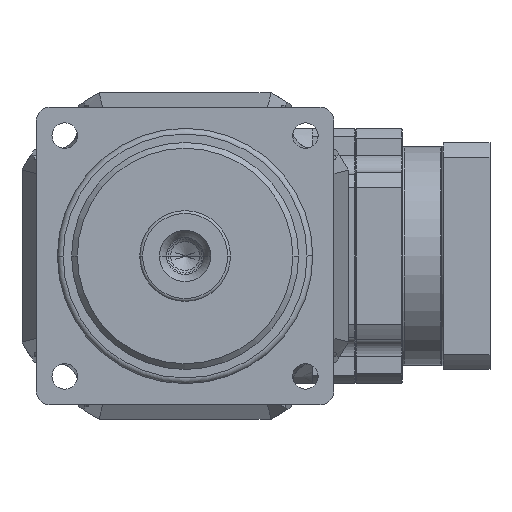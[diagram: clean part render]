
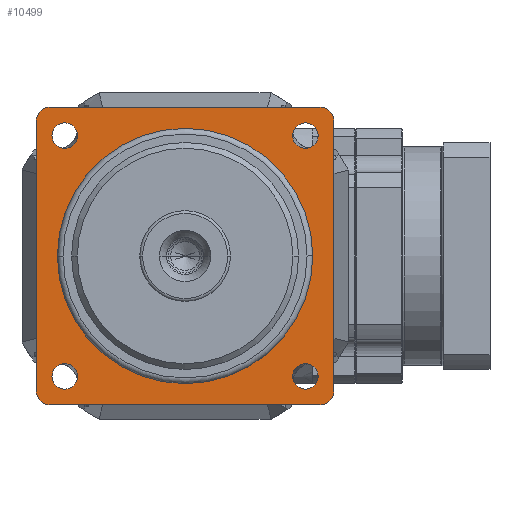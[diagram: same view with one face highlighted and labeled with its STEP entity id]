
A CAD part, left-side view. The second image highlights one B-rep face of the part: STEP entity #10499.
In plain terms, the highlighted planar face has unit normal (-1, 0, 0) as drawn and (0, 0, -1) by its records, which use the part's own axes.
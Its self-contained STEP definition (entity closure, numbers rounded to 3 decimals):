
#8212=CARTESIAN_POINT('',(-42.426,-42.426,0.));
#8213=DIRECTION('',(0.,0.,1.));
#8214=DIRECTION('',(1.,0.,0.));
#8215=AXIS2_PLACEMENT_3D('',#8212,#8213,#8214);
#8217=CARTESIAN_POINT('',(-42.426,-42.426,0.));
#8218=DIRECTION('',(0.,0.,1.));
#8219=DIRECTION('',(-1.,0.,0.));
#8220=AXIS2_PLACEMENT_3D('',#8217,#8218,#8219);
#8222=CARTESIAN_POINT('',(-42.426,42.426,0.));
#8223=DIRECTION('',(0.,0.,1.));
#8224=DIRECTION('',(1.,0.,0.));
#8225=AXIS2_PLACEMENT_3D('',#8222,#8223,#8224);
#8227=CARTESIAN_POINT('',(-42.426,42.426,0.));
#8228=DIRECTION('',(0.,0.,1.));
#8229=DIRECTION('',(-1.,0.,0.));
#8230=AXIS2_PLACEMENT_3D('',#8227,#8228,#8229);
#8232=CARTESIAN_POINT('',(42.426,42.426,0.));
#8233=DIRECTION('',(0.,0.,1.));
#8234=DIRECTION('',(1.,0.,0.));
#8235=AXIS2_PLACEMENT_3D('',#8232,#8233,#8234);
#8237=CARTESIAN_POINT('',(42.426,42.426,0.));
#8238=DIRECTION('',(0.,0.,1.));
#8239=DIRECTION('',(-1.,0.,0.));
#8240=AXIS2_PLACEMENT_3D('',#8237,#8238,#8239);
#8242=CARTESIAN_POINT('',(0.,0.,0.));
#8243=DIRECTION('',(0.,0.,1.));
#8244=DIRECTION('',(0.,-1.,0.));
#8245=AXIS2_PLACEMENT_3D('',#8242,#8243,#8244);
#8247=CARTESIAN_POINT('',(0.,0.,0.));
#8248=DIRECTION('',(0.,0.,1.));
#8249=DIRECTION('',(0.,1.,0.));
#8250=AXIS2_PLACEMENT_3D('',#8247,#8248,#8249);
#8252=DIRECTION('',(-1.,0.,0.));
#8253=VECTOR('',#8252,95.);
#8254=CARTESIAN_POINT('',(47.5,52.5,0.));
#8255=LINE('',#8254,#8253);
#8256=DIRECTION('',(0.,-1.,0.));
#8257=VECTOR('',#8256,95.);
#8258=CARTESIAN_POINT('',(-52.5,47.5,0.));
#8259=LINE('',#8258,#8257);
#8260=DIRECTION('',(1.,0.,0.));
#8261=VECTOR('',#8260,95.);
#8262=CARTESIAN_POINT('',(-47.5,-52.5,0.));
#8263=LINE('',#8262,#8261);
#8264=DIRECTION('',(0.,1.,0.));
#8265=VECTOR('',#8264,95.);
#8266=CARTESIAN_POINT('',(52.5,-47.5,0.));
#8267=LINE('',#8266,#8265);
#8268=CARTESIAN_POINT('',(42.426,-42.426,0.));
#8269=DIRECTION('',(0.,0.,1.));
#8270=DIRECTION('',(1.,0.,0.));
#8271=AXIS2_PLACEMENT_3D('',#8268,#8269,#8270);
#8273=CARTESIAN_POINT('',(42.426,-42.426,0.));
#8274=DIRECTION('',(0.,0.,1.));
#8275=DIRECTION('',(-1.,0.,0.));
#8276=AXIS2_PLACEMENT_3D('',#8273,#8274,#8275);
#8640=CARTESIAN_POINT('',(-47.5,47.5,0.));
#8641=DIRECTION('',(0.,0.,-1.));
#8642=DIRECTION('',(-1.,0.,0.));
#8643=AXIS2_PLACEMENT_3D('',#8640,#8641,#8642);
#9668=CARTESIAN_POINT('',(47.5,-47.5,0.));
#9669=DIRECTION('',(0.,0.,-1.));
#9670=DIRECTION('',(1.,0.,0.));
#9671=AXIS2_PLACEMENT_3D('',#9668,#9669,#9670);
#9690=CARTESIAN_POINT('',(47.5,47.5,0.));
#9691=DIRECTION('',(0.,0.,-1.));
#9692=DIRECTION('',(0.,1.,0.));
#9693=AXIS2_PLACEMENT_3D('',#9690,#9691,#9692);
#9708=CARTESIAN_POINT('',(-47.5,-47.5,0.));
#9709=DIRECTION('',(0.,0.,-1.));
#9710=DIRECTION('',(0.,-1.,0.));
#9711=AXIS2_PLACEMENT_3D('',#9708,#9709,#9710);
#10064=CARTESIAN_POINT('',(0.,-45.,0.));
#10065=CARTESIAN_POINT('',(0.,45.,0.));
#10066=VERTEX_POINT('',#10064);
#10067=VERTEX_POINT('',#10065);
#10069=CARTESIAN_POINT('',(52.5,47.5,0.));
#10071=VERTEX_POINT('',#10069);
#10074=CARTESIAN_POINT('',(47.5,52.5,0.));
#10075=VERTEX_POINT('',#10074);
#10077=CARTESIAN_POINT('',(-47.5,52.5,0.));
#10079=VERTEX_POINT('',#10077);
#10082=CARTESIAN_POINT('',(-52.5,47.5,0.));
#10083=VERTEX_POINT('',#10082);
#10085=CARTESIAN_POINT('',(47.5,-52.5,0.));
#10087=VERTEX_POINT('',#10085);
#10090=CARTESIAN_POINT('',(52.5,-47.5,0.));
#10091=VERTEX_POINT('',#10090);
#10093=CARTESIAN_POINT('',(-52.5,-47.5,0.));
#10095=VERTEX_POINT('',#10093);
#10098=CARTESIAN_POINT('',(-47.5,-52.5,0.));
#10099=VERTEX_POINT('',#10098);
#10100=CARTESIAN_POINT('',(46.926,-42.426,0.));
#10101=CARTESIAN_POINT('',(37.926,-42.426,0.));
#10102=VERTEX_POINT('',#10100);
#10103=VERTEX_POINT('',#10101);
#10106=CARTESIAN_POINT('',(46.926,42.426,0.));
#10107=CARTESIAN_POINT('',(37.926,42.426,0.));
#10108=VERTEX_POINT('',#10106);
#10109=VERTEX_POINT('',#10107);
#10112=CARTESIAN_POINT('',(-37.926,42.426,0.));
#10113=CARTESIAN_POINT('',(-46.926,42.426,0.));
#10114=VERTEX_POINT('',#10112);
#10115=VERTEX_POINT('',#10113);
#10118=CARTESIAN_POINT('',(-37.926,-42.426,0.));
#10119=CARTESIAN_POINT('',(-46.926,-42.426,0.));
#10120=VERTEX_POINT('',#10118);
#10121=VERTEX_POINT('',#10119);
#10448=CARTESIAN_POINT('',(0.,0.,0.));
#10449=DIRECTION('',(0.,0.,1.));
#10450=DIRECTION('',(0.,-1.,0.));
#10451=AXIS2_PLACEMENT_3D('',#10448,#10449,#10450);
#10452=PLANE('',#10451);
#10454=ORIENTED_EDGE('',*,*,#10453,.F.);
#10456=ORIENTED_EDGE('',*,*,#10455,.T.);
#10458=ORIENTED_EDGE('',*,*,#10457,.F.);
#10460=ORIENTED_EDGE('',*,*,#10459,.T.);
#10462=ORIENTED_EDGE('',*,*,#10461,.F.);
#10464=ORIENTED_EDGE('',*,*,#10463,.T.);
#10466=ORIENTED_EDGE('',*,*,#10465,.F.);
#10468=ORIENTED_EDGE('',*,*,#10467,.T.);
#10469=EDGE_LOOP('',(#10454,#10456,#10458,#10460,#10462,#10464,#10466,#10468));
#10470=FACE_OUTER_BOUND('',#10469,.F.);
#10472=ORIENTED_EDGE('',*,*,#10471,.F.);
#10474=ORIENTED_EDGE('',*,*,#10473,.F.);
#10475=EDGE_LOOP('',(#10472,#10474));
#10476=FACE_BOUND('',#10475,.F.);
#10478=ORIENTED_EDGE('',*,*,#10477,.F.);
#10480=ORIENTED_EDGE('',*,*,#10479,.F.);
#10481=EDGE_LOOP('',(#10478,#10480));
#10482=FACE_BOUND('',#10481,.F.);
#10483=ORIENTED_EDGE('',*,*,#10383,.F.);
#10484=ORIENTED_EDGE('',*,*,#10442,.F.);
#10485=EDGE_LOOP('',(#10483,#10484));
#10486=FACE_BOUND('',#10485,.F.);
#10488=ORIENTED_EDGE('',*,*,#10487,.F.);
#10490=ORIENTED_EDGE('',*,*,#10489,.F.);
#10491=EDGE_LOOP('',(#10488,#10490));
#10492=FACE_BOUND('',#10491,.F.);
#10494=ORIENTED_EDGE('',*,*,#10493,.F.);
#10496=ORIENTED_EDGE('',*,*,#10495,.F.);
#10497=EDGE_LOOP('',(#10494,#10496));
#10498=FACE_BOUND('',#10497,.F.);
#10499=ADVANCED_FACE('',(#10470,#10476,#10482,#10486,#10492,#10498),#10452,.F.);
#8216=CIRCLE('',#8215,4.5);
#8221=CIRCLE('',#8220,4.5);
#8226=CIRCLE('',#8225,4.5);
#8231=CIRCLE('',#8230,4.5);
#8236=CIRCLE('',#8235,4.5);
#8241=CIRCLE('',#8240,4.5);
#8246=CIRCLE('',#8245,45.);
#8251=CIRCLE('',#8250,45.);
#8272=CIRCLE('',#8271,4.5);
#8277=CIRCLE('',#8276,4.5);
#8644=CIRCLE('',#8643,5.);
#9672=CIRCLE('',#9671,5.);
#9694=CIRCLE('',#9693,5.);
#9712=CIRCLE('',#9711,5.);
#10383=EDGE_CURVE('',#10066,#10067,#8246,.T.);
#10442=EDGE_CURVE('',#10067,#10066,#8251,.T.);
#10453=EDGE_CURVE('',#10075,#10071,#9694,.T.);
#10455=EDGE_CURVE('',#10075,#10079,#8255,.T.);
#10457=EDGE_CURVE('',#10083,#10079,#8644,.T.);
#10459=EDGE_CURVE('',#10083,#10095,#8259,.T.);
#10461=EDGE_CURVE('',#10099,#10095,#9712,.T.);
#10463=EDGE_CURVE('',#10099,#10087,#8263,.T.);
#10465=EDGE_CURVE('',#10091,#10087,#9672,.T.);
#10467=EDGE_CURVE('',#10091,#10071,#8267,.T.);
#10471=EDGE_CURVE('',#10114,#10115,#8226,.T.);
#10473=EDGE_CURVE('',#10115,#10114,#8231,.T.);
#10477=EDGE_CURVE('',#10108,#10109,#8236,.T.);
#10479=EDGE_CURVE('',#10109,#10108,#8241,.T.);
#10487=EDGE_CURVE('',#10120,#10121,#8216,.T.);
#10489=EDGE_CURVE('',#10121,#10120,#8221,.T.);
#10493=EDGE_CURVE('',#10102,#10103,#8272,.T.);
#10495=EDGE_CURVE('',#10103,#10102,#8277,.T.);
